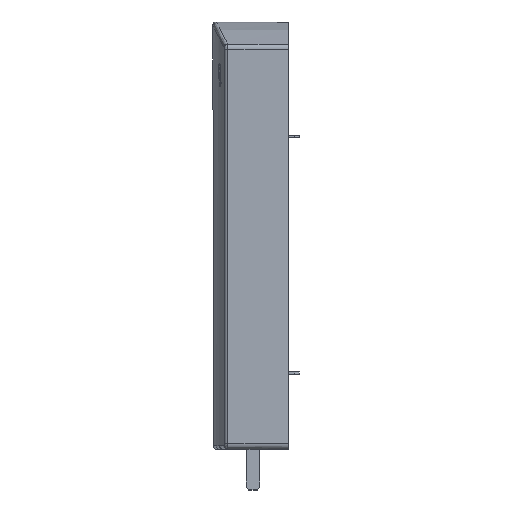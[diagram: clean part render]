
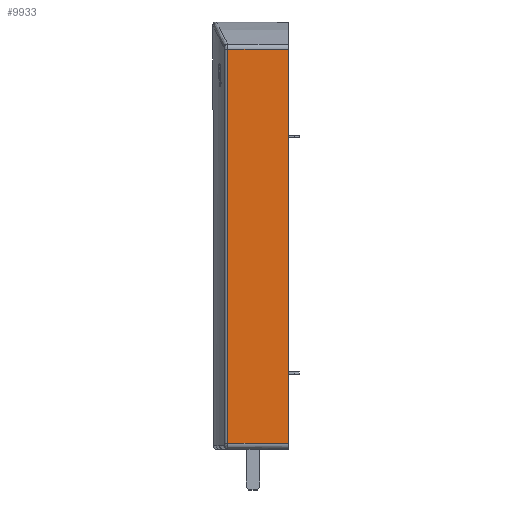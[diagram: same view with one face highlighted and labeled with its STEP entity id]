
A CAD part, top view. The second image highlights one B-rep face of the part: STEP entity #9933.
In plain terms, the highlighted planar face has unit normal (0, 0, 1).
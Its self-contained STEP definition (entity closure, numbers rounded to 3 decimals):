
#1586 = VERTEX_POINT ( 'NONE', #2178 ) ;
#2178 = CARTESIAN_POINT ( 'NONE',  ( 0., 207.096, 22.754 ) ) ;
#3254 = LINE ( 'NONE', #3255, #8179 ) ;
#3255 = CARTESIAN_POINT ( 'NONE',  ( -41.001, -6.062, 22.754 ) ) ;
#3256 = DIRECTION ( 'NONE',  ( 1., 0., 0. ) ) ;
#3258 = LINE ( 'NONE', #3268, #8178 ) ;
#3268 = CARTESIAN_POINT ( 'NONE',  ( -41.001, 207.096, 22.754 ) ) ;
#3269 = DIRECTION ( 'NONE',  ( 1., 0., 0. ) ) ;
#3270 = LINE ( 'NONE', #3271, #8181 ) ;
#3271 = CARTESIAN_POINT ( 'NONE',  ( -32.709, 207.096, 22.754 ) ) ;
#3272 = DIRECTION ( 'NONE',  ( 0., 1., 0. ) ) ;
#3805 = CARTESIAN_POINT ( 'NONE',  ( 0., 207.096, 22.754 ) ) ;
#3807 = LINE ( 'NONE', #3805, #4364 ) ;
#3811 = DIRECTION ( 'NONE',  ( 0., 1., 0. ) ) ;
#4364 = VECTOR ( 'NONE', #3811, 1000. ) ;
#6251 = CARTESIAN_POINT ( 'NONE',  ( -41.001, 207.096, 22.754 ) ) ;
#6252 = FACE_OUTER_BOUND ( 'NONE', #12486, .T. ) ;
#6260 = PLANE ( 'NONE',  #13510 ) ;
#6263 = DIRECTION ( 'NONE',  ( 0., 0., 1. ) ) ;
#6264 = DIRECTION ( 'NONE',  ( -1., 0., 0. ) ) ;
#7242 = CARTESIAN_POINT ( 'NONE',  ( -32.709, -6.062, 22.754 ) ) ;
#7244 = CARTESIAN_POINT ( 'NONE',  ( -32.709, 207.096, 22.754 ) ) ;
#7530 = ORIENTED_EDGE ( 'NONE', *, *, #12975, .T. ) ;
#7531 = ORIENTED_EDGE ( 'NONE', *, *, #11947, .T. ) ;
#7532 = ORIENTED_EDGE ( 'NONE', *, *, #12977, .F. ) ;
#7533 = ORIENTED_EDGE ( 'NONE', *, *, #12978, .F. ) ;
#8178 = VECTOR ( 'NONE', #3269, 1000. ) ;
#8179 = VECTOR ( 'NONE', #3256, 1000. ) ;
#8181 = VECTOR ( 'NONE', #3272, 1000. ) ;
#8628 = CARTESIAN_POINT ( 'NONE',  ( 0., -6.062, 22.754 ) ) ;
#9616 = VERTEX_POINT ( 'NONE', #8628 ) ;
#9933 = ADVANCED_FACE ( 'NONE', ( #6252 ), #6260, .T. ) ;
#11947 = EDGE_CURVE ( 'NONE', #9616, #1586, #3807, .T. ) ;
#12486 = EDGE_LOOP ( 'NONE', ( #7530, #7531, #7532, #7533 ) ) ;
#12975 = EDGE_CURVE ( 'NONE', #13344, #9616, #3254, .T. ) ;
#12977 = EDGE_CURVE ( 'NONE', #13347, #1586, #3258, .T. ) ;
#12978 = EDGE_CURVE ( 'NONE', #13344, #13347, #3270, .T. ) ;
#13344 = VERTEX_POINT ( 'NONE', #7242 ) ;
#13347 = VERTEX_POINT ( 'NONE', #7244 ) ;
#13510 = AXIS2_PLACEMENT_3D ( 'NONE', #6251, #6263, #6264 ) ;
